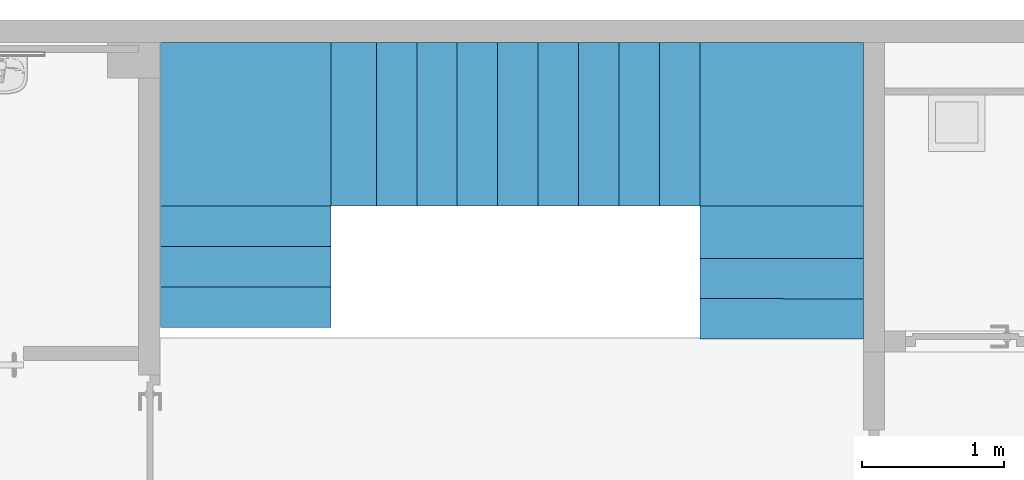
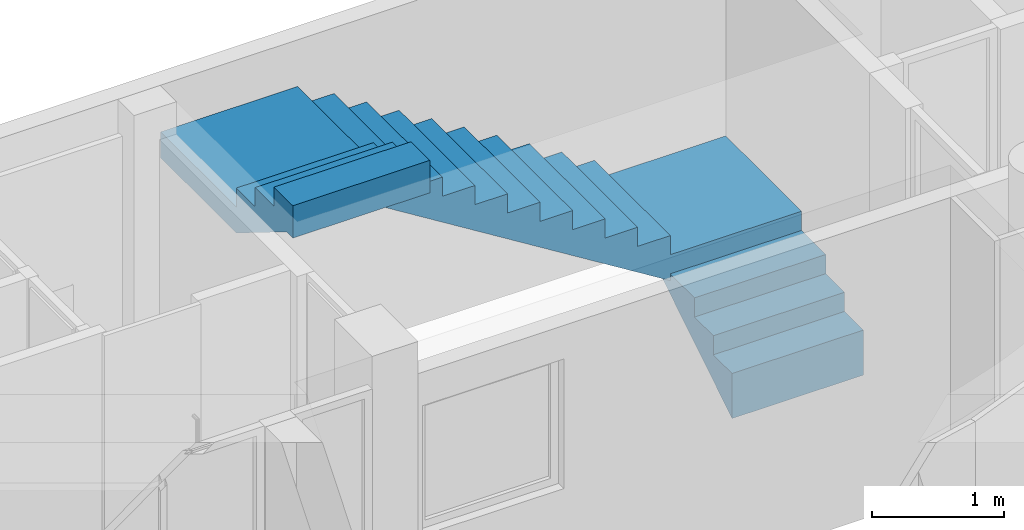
"""IFC4 building model written with IfcOpenShell, lengths in metres."""

from ifc_helpers import new_model, entity, si_unit, converted_unit, derived_unit, frame, origin, place, context, subcontext, project, spatial, faceted_brep, element, save


model = new_model("IFC4")

# Units and contexts
model_context = context("Model", 3, precision=1e-05, world=origin())
body_context = subcontext(model_context, "Body", "Model", "MODEL_VIEW")
ifc_project = project(units=[si_unit("LENGTHUNIT", "METRE"), si_unit("AREAUNIT", "SQUARE_METRE"), si_unit("VOLUMEUNIT", "CUBIC_METRE"), si_unit("MASSUNIT", "GRAM", prefix="KILO"), converted_unit("PLANEANGLEUNIT", "DEGREE", entity("IfcPlaneAngleMeasure", 0.0174532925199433), si_unit("PLANEANGLEUNIT", "RADIAN"), dimensions=[0, 0, 0, 0, 0, 0, 0]), derived_unit("THERMALTRANSMITTANCEUNIT", [(si_unit("POWERUNIT", "WATT"), 1), (si_unit("THERMODYNAMICTEMPERATUREUNIT", "KELVIN"), -1), (si_unit("LENGTHUNIT", "METRE"), -2)]), derived_unit("VOLUMETRICFLOWRATEUNIT", [(si_unit("LENGTHUNIT", "METRE"), 3), (converted_unit("TIMEUNIT", "hour", entity("IfcTimeMeasure", 3600.0), si_unit("TIMEUNIT", "SECOND"), dimensions=[0, 0, 1, 0, 0, 0, 0]), -1), (si_unit("LENGTHUNIT", "METRE"), -1)])], contexts=[model_context])

# Building, storeys
building_placement = place(None, origin())
building = spatial("IfcBuilding", under=ifc_project, at=building_placement, Name="HABITATGE PLURIFAMILIAR", CompositionType="ELEMENT")
storey_1_placement = place(building_placement, frame((0.0, 0.0, 9.26)))
storey_1 = spatial("IfcBuildingStorey", under=building, at=storey_1_placement, Name="PLANTA SEGONA", CompositionType="ELEMENT", Elevation=9.26)
storey_2_placement = place(storey_1_placement, frame((0.0, 0.0, 6.25)))
storey_2 = spatial("IfcBuildingStorey", under=storey_1, at=storey_2_placement, Name="NOU", CompositionType="PARTIAL")

# Stair
stair_placement = place(storey_2_placement, frame((410.831578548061, 25.9803256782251, -6.49006483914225)))
element("IfcStair", 1, at=stair_placement, inside=storey_2, Name="Escala P2", PredefinedType="NOTDEFINED", context=body_context, shape_type="Brep", body=[
    faceted_brep([(3.79890759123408, 0.000171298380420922, 0.377123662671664), (3.79890759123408, 0.000171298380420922, 0.417123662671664), (4.94890757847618, 0.0, 0.417123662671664), (4.94890757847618, 0.0, 0.377123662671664), (4.94895003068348, 0.284999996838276, 0.417123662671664), (4.94895003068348, 0.284999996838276, 0.377123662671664), (3.79895004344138, 0.285171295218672, 0.417123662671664), (3.79895004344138, 0.285171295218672, 0.377123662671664)], [[[0, 1, 2, 3]], [[3, 2, 4, 5]], [[5, 4, 6, 7]], [[7, 6, 1, 0]], [[0, 3, 5, 7]], [[1, 6, 4, 2]]], orient=[[False], [False], [False], [False], [False], [False]]),
    faceted_brep([(3.79895004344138, 0.285171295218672, 0.554182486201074), (3.79895004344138, 0.285171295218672, 0.594182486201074), (4.94895003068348, 0.284999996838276, 0.594182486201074), (4.94895003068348, 0.284999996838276, 0.554182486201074), (4.94899248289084, 0.569999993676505, 0.594182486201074), (4.94899248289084, 0.569999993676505, 0.554182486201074), (3.79899249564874, 0.570171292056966, 0.594182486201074), (3.79899249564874, 0.570171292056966, 0.554182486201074)], [[[0, 1, 2, 3]], [[3, 2, 4, 5]], [[5, 4, 6, 7]], [[7, 6, 1, 0]], [[0, 3, 5, 7]], [[1, 6, 4, 2]]], orient=[[False], [False], [False], [False], [False], [False]]),
    faceted_brep([(3.79899249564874, 0.570171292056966, 0.731241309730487), (3.79899249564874, 0.570171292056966, 0.771241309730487), (4.94899248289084, 0.569999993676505, 0.771241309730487), (4.94899248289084, 0.569999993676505, 0.731241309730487), (4.94904726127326, 0.937750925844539, 0.771241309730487), (4.94904726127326, 0.937750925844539, 0.731241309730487), (3.79904727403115, 0.937922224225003, 0.771241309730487), (3.79904727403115, 0.937922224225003, 0.731241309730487)], [[[0, 1, 2, 3]], [[3, 2, 4, 5]], [[5, 4, 6, 7]], [[7, 6, 1, 0]], [[0, 3, 5, 7]], [[1, 6, 4, 2]]], orient=[[False], [False], [False], [False], [False], [False]]),
    faceted_brep([(4.94904726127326, 0.937750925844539, 0.731241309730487), (4.94899248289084, 0.569999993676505, 0.731241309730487), (3.79899249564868, 0.570171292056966, 0.731241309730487), (3.79904727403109, 0.937922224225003, 0.731241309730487), (4.94890757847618, 0.0, 0.0), (4.94890757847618, 0.0, 0.377123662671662), (4.94895003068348, 0.284999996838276, 0.377123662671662), (4.94895003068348, 0.284999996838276, 0.554182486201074), (4.94899248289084, 0.569999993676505, 0.554182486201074), (4.94904726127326, 0.937750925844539, 0.708300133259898), (4.94907740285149, 1.14010435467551, 0.708300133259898), (3.79899249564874, 0.570171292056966, 0.554182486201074), (3.79907741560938, 1.14027565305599, 0.708300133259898), (3.79904727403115, 0.937922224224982, 0.708300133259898), (3.79895004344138, 0.285171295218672, 0.554182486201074), (3.79895004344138, 0.285171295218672, 0.377123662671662), (3.79890759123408, 0.000171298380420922, 0.377123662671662), (3.79890759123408, 0.000171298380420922, 0.0)], [[[0, 1, 2, 3]], [[4, 5, 6, 7, 8, 1, 0, 9, 10]], [[1, 8, 11, 2]], [[12, 13, 3, 2, 11, 14, 15, 16, 17]], [[12, 17, 4, 10]], [[13, 12, 10, 9]], [[8, 7, 14, 11]], [[7, 6, 15, 14]], [[6, 5, 16, 15]], [[5, 4, 17, 16]], [[13, 9, 0, 3]]], orient=[[False], [False], [False], [False], [False], [False], [False], [False], [False], [False], [False]]),
    faceted_brep([(3.79904727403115, 0.937922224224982, 0.908300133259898), (3.79904727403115, 0.937922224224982, 0.948300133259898), (4.94904726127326, 0.937750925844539, 0.948300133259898), (4.94904726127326, 0.937750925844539, 0.908300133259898), (4.94921858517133, 2.08792222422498, 0.948300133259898), (4.94921858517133, 2.08792222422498, 0.908300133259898), (3.79904727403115, 2.08792222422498, 0.948300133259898), (3.79904727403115, 2.08792222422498, 0.908300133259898)], [[[0, 1, 2, 3]], [[3, 2, 4, 5]], [[5, 4, 6, 7]], [[7, 6, 1, 0]], [[0, 3, 5, 7]], [[1, 6, 4, 2]]], orient=[[False], [False], [False], [False], [False], [False]]),
    faceted_brep([(3.79904727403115, 0.937922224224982, 0.708300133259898), (3.79904727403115, 0.937922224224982, 0.908300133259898), (4.94904726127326, 0.937750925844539, 0.908300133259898), (4.94904726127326, 0.937750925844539, 0.708300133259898), (4.94921858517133, 2.08792222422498, 0.908300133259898), (4.94921858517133, 2.08792222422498, 0.708300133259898), (3.79904727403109, 2.08792222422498, 0.908300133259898), (3.79904727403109, 2.08792222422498, 0.708300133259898)], [[[0, 1, 2, 3]], [[3, 2, 4, 5]], [[5, 4, 6, 7]], [[7, 6, 1, 0]], [[0, 3, 5, 7]], [[1, 6, 4, 2]]], orient=[[False], [False], [False], [False], [False], [False]]),
    faceted_brep([(3.79904727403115, 0.937922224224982, 1.08535895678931), (3.79904727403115, 0.937922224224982, 1.12535895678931), (3.79904727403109, 2.08792222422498, 1.12535895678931), (3.79904727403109, 2.08792222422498, 1.08535895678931), (3.51404727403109, 2.08792222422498, 1.12535895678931), (3.51404727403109, 2.08792222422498, 1.08535895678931), (3.51404727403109, 0.937922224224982, 1.12535895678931), (3.51404727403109, 0.937922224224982, 1.08535895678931)], [[[0, 1, 2, 3]], [[3, 2, 4, 5]], [[5, 4, 6, 7]], [[7, 6, 1, 0]], [[0, 3, 5, 7]], [[1, 6, 4, 2]]], orient=[[False], [False], [False], [False], [False], [False]]),
    faceted_brep([(3.51404727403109, 0.937922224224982, 1.26241778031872), (3.51404727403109, 0.937922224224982, 1.30241778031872), (3.51404727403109, 2.08792222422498, 1.30241778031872), (3.51404727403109, 2.08792222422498, 1.26241778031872), (3.22904727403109, 2.08792222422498, 1.30241778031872), (3.22904727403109, 2.08792222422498, 1.26241778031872), (3.22904727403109, 0.937922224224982, 1.30241778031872), (3.22904727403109, 0.937922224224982, 1.26241778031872)], [[[0, 1, 2, 3]], [[3, 2, 4, 5]], [[5, 4, 6, 7]], [[7, 6, 1, 0]], [[0, 3, 5, 7]], [[1, 6, 4, 2]]], orient=[[False], [False], [False], [False], [False], [False]]),
    faceted_brep([(3.22904727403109, 0.937922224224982, 1.43947660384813), (3.22904727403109, 0.937922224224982, 1.47947660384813), (3.22904727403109, 2.08792222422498, 1.47947660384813), (3.22904727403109, 2.08792222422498, 1.43947660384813), (2.94404727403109, 2.08792222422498, 1.47947660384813), (2.94404727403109, 2.08792222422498, 1.43947660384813), (2.94404727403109, 0.937922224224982, 1.47947660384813), (2.94404727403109, 0.937922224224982, 1.43947660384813)], [[[0, 1, 2, 3]], [[3, 2, 4, 5]], [[5, 4, 6, 7]], [[7, 6, 1, 0]], [[0, 3, 5, 7]], [[1, 6, 4, 2]]], orient=[[False], [False], [False], [False], [False], [False]]),
    faceted_brep([(2.94404727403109, 0.937922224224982, 1.61653542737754), (2.94404727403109, 0.937922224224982, 1.65653542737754), (2.94404727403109, 2.08792222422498, 1.65653542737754), (2.94404727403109, 2.08792222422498, 1.61653542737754), (2.65904727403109, 2.08792222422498, 1.65653542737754), (2.65904727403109, 2.08792222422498, 1.61653542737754), (2.65904727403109, 0.937922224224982, 1.65653542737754), (2.65904727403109, 0.937922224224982, 1.61653542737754)], [[[0, 1, 2, 3]], [[3, 2, 4, 5]], [[5, 4, 6, 7]], [[7, 6, 1, 0]], [[0, 3, 5, 7]], [[1, 6, 4, 2]]], orient=[[False], [False], [False], [False], [False], [False]]),
    faceted_brep([(2.65904727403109, 0.937922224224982, 1.79359425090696), (2.65904727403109, 0.937922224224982, 1.83359425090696), (2.65904727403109, 2.08792222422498, 1.83359425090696), (2.65904727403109, 2.08792222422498, 1.79359425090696), (2.37404727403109, 2.08792222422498, 1.83359425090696), (2.37404727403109, 2.08792222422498, 1.79359425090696), (2.37404727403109, 0.937922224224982, 1.83359425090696), (2.37404727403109, 0.937922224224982, 1.79359425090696)], [[[0, 1, 2, 3]], [[3, 2, 4, 5]], [[5, 4, 6, 7]], [[7, 6, 1, 0]], [[0, 3, 5, 7]], [[1, 6, 4, 2]]], orient=[[False], [False], [False], [False], [False], [False]]),
    faceted_brep([(2.37404727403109, 0.937922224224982, 1.97065307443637), (2.37404727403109, 0.937922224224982, 2.01065307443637), (2.37404727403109, 2.08792222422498, 2.01065307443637), (2.37404727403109, 2.08792222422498, 1.97065307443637), (2.08904727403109, 2.08792222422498, 2.01065307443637), (2.08904727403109, 2.08792222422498, 1.97065307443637), (2.08904727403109, 0.937922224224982, 2.01065307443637), (2.08904727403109, 0.937922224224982, 1.97065307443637)], [[[0, 1, 2, 3]], [[3, 2, 4, 5]], [[5, 4, 6, 7]], [[7, 6, 1, 0]], [[0, 3, 5, 7]], [[1, 6, 4, 2]]], orient=[[False], [False], [False], [False], [False], [False]]),
    faceted_brep([(2.08904727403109, 0.937922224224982, 2.14771189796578), (2.08904727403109, 0.937922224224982, 2.18771189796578), (2.08904727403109, 2.08792222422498, 2.18771189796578), (2.08904727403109, 2.08792222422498, 2.14771189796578), (1.80404727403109, 2.08792222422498, 2.18771189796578), (1.80404727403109, 2.08792222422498, 2.14771189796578), (1.80404727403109, 0.937922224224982, 2.18771189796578), (1.80404727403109, 0.937922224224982, 2.14771189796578)], [[[0, 1, 2, 3]], [[3, 2, 4, 5]], [[5, 4, 6, 7]], [[7, 6, 1, 0]], [[0, 3, 5, 7]], [[1, 6, 4, 2]]], orient=[[False], [False], [False], [False], [False], [False]]),
    faceted_brep([(1.80404727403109, 0.937922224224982, 2.32477072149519), (1.80404727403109, 0.937922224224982, 2.36477072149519), (1.80404727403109, 2.08792222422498, 2.36477072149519), (1.80404727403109, 2.08792222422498, 2.32477072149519), (1.51904727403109, 2.08792222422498, 2.36477072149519), (1.51904727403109, 2.08792222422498, 2.32477072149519), (1.51904727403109, 0.937922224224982, 2.36477072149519), (1.51904727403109, 0.937922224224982, 2.32477072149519)], [[[0, 1, 2, 3]], [[3, 2, 4, 5]], [[5, 4, 6, 7]], [[7, 6, 1, 0]], [[0, 3, 5, 7]], [[1, 6, 4, 2]]], orient=[[False], [False], [False], [False], [False], [False]]),
    faceted_brep([(1.51904727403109, 0.937922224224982, 2.5018295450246), (1.51904727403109, 0.937922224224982, 2.5418295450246), (1.51904727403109, 2.08792222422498, 2.5418295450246), (1.51904727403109, 2.08792222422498, 2.5018295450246), (1.19984509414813, 2.08792222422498, 2.5418295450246), (1.19984509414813, 2.08792222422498, 2.5018295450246), (1.19984509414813, 0.937922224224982, 2.5418295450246), (1.19984509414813, 0.937922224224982, 2.5018295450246)], [[[0, 1, 2, 3]], [[3, 2, 4, 5]], [[5, 4, 6, 7]], [[7, 6, 1, 0]], [[0, 3, 5, 7]], [[1, 6, 4, 2]]], orient=[[False], [False], [False], [False], [False], [False]]),
    faceted_brep([(1.19984509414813, 2.08792222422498, 2.5018295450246), (1.51904727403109, 2.08792222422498, 2.5018295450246), (1.51904727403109, 0.937922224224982, 2.5018295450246), (1.19984509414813, 0.937922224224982, 2.5018295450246), (3.79904727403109, 2.08792222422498, 0.708300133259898), (3.79904727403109, 2.08792222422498, 1.08535895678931), (3.51404727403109, 2.08792222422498, 1.08535895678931), (3.51404727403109, 2.08792222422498, 1.26241778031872), (3.22904727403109, 2.08792222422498, 1.26241778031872), (3.22904727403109, 2.08792222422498, 1.43947660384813), (2.94404727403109, 2.08792222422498, 1.43947660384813), (2.94404727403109, 2.08792222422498, 1.61653542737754), (2.65904727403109, 2.08792222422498, 1.61653542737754), (2.65904727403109, 2.08792222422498, 1.79359425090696), (2.37404727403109, 2.08792222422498, 1.79359425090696), (2.37404727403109, 2.08792222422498, 1.97065307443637), (2.08904727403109, 2.08792222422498, 1.97065307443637), (2.08904727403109, 2.08792222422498, 2.14771189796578), (1.80404727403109, 2.08792222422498, 2.14771189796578), (1.80404727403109, 2.08792222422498, 2.32477072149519), (1.51904727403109, 2.08792222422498, 2.32477072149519), (1.19984509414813, 2.08792222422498, 2.47888836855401), (0.948942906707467, 2.08792222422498, 2.47888836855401), (3.79894290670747, 2.08792222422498, 0.708300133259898), (1.51904727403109, 0.937922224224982, 2.32477072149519), (3.79894290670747, 0.937922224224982, 0.708300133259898), (0.948942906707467, 0.937922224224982, 2.47888836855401), (1.19984509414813, 0.937922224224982, 2.47888836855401), (1.80404727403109, 0.937922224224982, 2.32477072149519), (1.80404727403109, 0.937922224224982, 2.14771189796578), (2.08904727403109, 0.937922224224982, 2.14771189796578), (2.08904727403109, 0.937922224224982, 1.97065307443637), (2.37404727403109, 0.937922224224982, 1.97065307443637), (2.37404727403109, 0.937922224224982, 1.79359425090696), (2.65904727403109, 0.937922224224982, 1.79359425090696), (2.65904727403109, 0.937922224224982, 1.61653542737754), (2.94404727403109, 0.937922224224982, 1.61653542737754), (2.94404727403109, 0.937922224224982, 1.43947660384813), (3.22904727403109, 0.937922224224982, 1.43947660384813), (3.22904727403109, 0.937922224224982, 1.26241778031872), (3.51404727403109, 0.937922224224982, 1.26241778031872), (3.51404727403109, 0.937922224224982, 1.08535895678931), (3.79904727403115, 0.937922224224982, 1.08535895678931), (3.79904727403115, 0.937922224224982, 0.708300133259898)], [[[0, 1, 2, 3]], [[4, 5, 6, 7, 8, 9, 10, 11, 12, 13, 14, 15, 16, 17, 18, 19, 20, 1, 0, 21, 22, 23]], [[1, 20, 24, 2]], [[25, 26, 27, 3, 2, 24, 28, 29, 30, 31, 32, 33, 34, 35, 36, 37, 38, 39, 40, 41, 42, 43]], [[4, 23, 25, 43]], [[26, 25, 23, 22]], [[27, 26, 22, 21]], [[20, 19, 28, 24]], [[19, 18, 29, 28]], [[18, 17, 30, 29]], [[17, 16, 31, 30]], [[16, 15, 32, 31]], [[15, 14, 33, 32]], [[14, 13, 34, 33]], [[13, 12, 35, 34]], [[12, 11, 36, 35]], [[11, 10, 37, 36]], [[10, 9, 38, 37]], [[9, 8, 39, 38]], [[8, 7, 40, 39]], [[7, 6, 41, 40]], [[6, 5, 42, 41]], [[5, 4, 43, 42]], [[27, 21, 0, 3]]], orient=[[False], [False], [False], [False], [False], [False], [False], [False], [False], [False], [False], [False], [False], [False], [False], [False], [False], [False], [False], [False], [False], [False], [False], [False]]),
    faceted_brep([(1.19984509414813, 0.937922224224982, 2.67888836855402), (1.19984509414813, 0.937922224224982, 2.71888836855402), (1.19984509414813, 2.08792222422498, 2.71888836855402), (1.19984509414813, 2.08792222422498, 2.67888836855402), (0.0, 2.08792222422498, 2.71888836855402), (0.0, 2.08792222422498, 2.67888836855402), (0.0, 0.937922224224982, 2.71888836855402), (0.0, 0.937922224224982, 2.67888836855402)], [[[0, 1, 2, 3]], [[3, 2, 4, 5]], [[5, 4, 6, 7]], [[7, 6, 1, 0]], [[0, 3, 5, 7]], [[1, 6, 4, 2]]], orient=[[False], [False], [False], [False], [False], [False]]),
    faceted_brep([(1.19984509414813, 0.937922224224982, 2.47888836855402), (1.19984509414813, 0.937922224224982, 2.67888836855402), (1.19984509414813, 2.08792222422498, 2.67888836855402), (1.19984509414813, 2.08792222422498, 2.47888836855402), (0.0, 2.08792222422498, 2.67888836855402), (0.0, 2.08792222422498, 2.47888836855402), (0.0, 0.937922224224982, 2.67888836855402), (0.0, 0.937922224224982, 2.47888836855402)], [[[0, 1, 2, 3]], [[3, 2, 4, 5]], [[5, 4, 6, 7]], [[7, 6, 1, 0]], [[0, 3, 5, 7]], [[1, 6, 4, 2]]], orient=[[False], [False], [False], [False], [False], [False]]),
    faceted_brep([(1.19984509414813, 0.937922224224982, 2.85594719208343), (1.19984509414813, 0.937922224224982, 2.89594719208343), (0.0, 0.937922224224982, 2.89594719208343), (0.0, 0.937922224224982, 2.85594719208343), (0.0, 0.652922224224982, 2.89594719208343), (0.0, 0.652922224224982, 2.85594719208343), (1.19984509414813, 0.652922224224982, 2.89594719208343), (1.19984509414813, 0.652922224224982, 2.85594719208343)], [[[0, 1, 2, 3]], [[3, 2, 4, 5]], [[5, 4, 6, 7]], [[7, 6, 1, 0]], [[0, 3, 5, 7]], [[1, 6, 4, 2]]], orient=[[False], [False], [False], [False], [False], [False]]),
    faceted_brep([(1.19984509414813, 0.652922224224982, 3.03300601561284), (1.19984509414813, 0.652922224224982, 3.07300601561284), (0.0, 0.652922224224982, 3.07300601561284), (0.0, 0.652922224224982, 3.03300601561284), (0.0, 0.367922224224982, 3.07300601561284), (0.0, 0.367922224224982, 3.03300601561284), (1.19984509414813, 0.367922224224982, 3.07300601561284), (1.19984509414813, 0.367922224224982, 3.03300601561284)], [[[0, 1, 2, 3]], [[3, 2, 4, 5]], [[5, 4, 6, 7]], [[7, 6, 1, 0]], [[0, 3, 5, 7]], [[1, 6, 4, 2]]], orient=[[False], [False], [False], [False], [False], [False]]),
    faceted_brep([(1.19984509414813, 0.367922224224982, 3.21006483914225), (1.19984509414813, 0.367922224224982, 3.25006483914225), (0.0, 0.367922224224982, 3.25006483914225), (0.0, 0.367922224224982, 3.21006483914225), (0.0, 0.0829222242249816, 3.25006483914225), (0.0, 0.0829222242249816, 3.21006483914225), (1.19984509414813, 0.0829222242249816, 3.25006483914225), (1.19984509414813, 0.0829222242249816, 3.21006483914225)], [[[0, 1, 2, 3]], [[3, 2, 4, 5]], [[5, 4, 6, 7]], [[7, 6, 1, 0]], [[0, 3, 5, 7]], [[1, 6, 4, 2]]], orient=[[False], [False], [False], [False], [False], [False]]),
    faceted_brep([(0.0, 0.0829222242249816, 3.21006483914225), (0.0, 0.367922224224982, 3.21006483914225), (1.19984509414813, 0.367922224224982, 3.21006483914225), (1.19984509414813, 0.0829222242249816, 3.21006483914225), (0.0, 0.937922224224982, 2.47888836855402), (0.0, 0.937922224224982, 2.85594719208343), (0.0, 0.652922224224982, 2.85594719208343), (0.0, 0.652922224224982, 3.03300601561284), (0.0, 0.367922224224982, 3.03300601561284), (0.0, 0.0829222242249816, 2.95006483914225), (0.0, 0.179395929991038, 2.95006483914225), (0.0, 0.93781785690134, 2.47888836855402), (1.19984509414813, 0.367922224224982, 3.03300601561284), (1.19984509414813, 0.93781785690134, 2.47888836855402), (1.19984509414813, 0.179395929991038, 2.95006483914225), (1.19984509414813, 0.0829222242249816, 2.95006483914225), (1.19984509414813, 0.652922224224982, 3.03300601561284), (1.19984509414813, 0.652922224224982, 2.85594719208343), (1.19984509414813, 0.937922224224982, 2.85594719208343), (1.19984509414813, 0.937922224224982, 2.47888836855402)], [[[0, 1, 2, 3]], [[4, 5, 6, 7, 8, 1, 0, 9, 10, 11]], [[1, 8, 12, 2]], [[13, 14, 15, 3, 2, 12, 16, 17, 18, 19]], [[4, 11, 13, 19]], [[14, 13, 11, 10]], [[15, 14, 10, 9]], [[8, 7, 16, 12]], [[7, 6, 17, 16]], [[6, 5, 18, 17]], [[5, 4, 19, 18]], [[15, 9, 0, 3]]], orient=[[False], [False], [False], [False], [False], [False], [False], [False], [False], [False], [False], [False]]),
])

save(model, "model.ifc")
